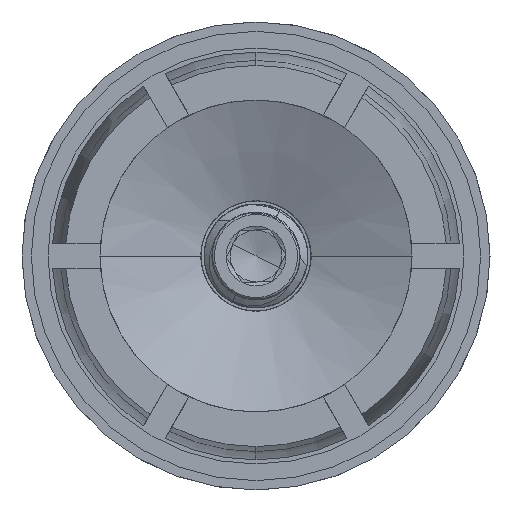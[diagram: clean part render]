
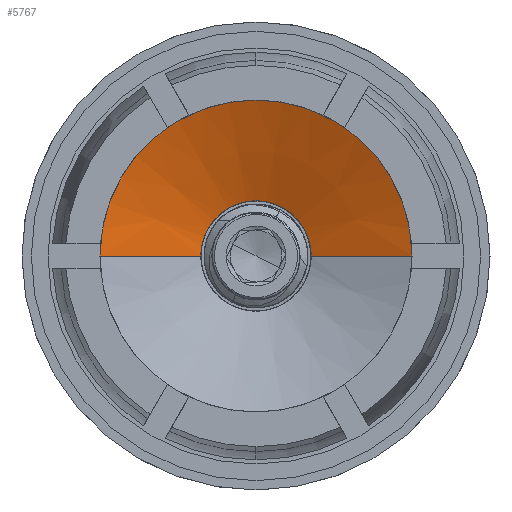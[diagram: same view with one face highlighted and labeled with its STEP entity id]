
A CAD part, left-side view. The second image highlights one B-rep face of the part: STEP entity #5767.
In plain terms, the highlighted conical face has half-angle 67.5 degrees and reference radius 2414.21 mm.
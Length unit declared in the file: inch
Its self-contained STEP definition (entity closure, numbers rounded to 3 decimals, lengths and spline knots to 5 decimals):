
#599 = EDGE_LOOP ( 'NONE', ( #23199, #25262, #19503, #22967, #2483 ) ) ;
#1415 = LINE ( 'NONE', #22164, #6798 ) ;
#1890 = DIRECTION ( 'NONE',  ( -0.383, -0.924, 0. ) ) ;
#2481 = VERTEX_POINT ( 'NONE', #18488 ) ;
#2483 = ORIENTED_EDGE ( 'NONE', *, *, #17747, .F. ) ;
#4364 = AXIS2_PLACEMENT_3D ( 'NONE', #8203, #16294, #13179 ) ;
#5008 = AXIS2_PLACEMENT_3D ( 'NONE', #19034, #6849, #21093 ) ;
#5767 = ADVANCED_FACE ( 'NONE', ( #8764 ), #23735, .F. ) ;
#6581 = CARTESIAN_POINT ( 'NONE',  ( -0.08726, 0., 0. ) ) ;
#6583 = VERTEX_POINT ( 'NONE', #14789 ) ;
#6798 = VECTOR ( 'NONE', #1890, 39.37008 ) ;
#6849 = DIRECTION ( 'NONE',  ( 1., 0., 0. ) ) ;
#6949 = AXIS2_PLACEMENT_3D ( 'NONE', #6581, #20815, #8636 ) ;
#7397 = CARTESIAN_POINT ( 'NONE',  ( -0.1875, 0., 0. ) ) ;
#7983 = DIRECTION ( 'NONE',  ( -0.383, 0.924, 0. ) ) ;
#8203 = CARTESIAN_POINT ( 'NONE',  ( -39.40225, 0., 0. ) ) ;
#8636 = DIRECTION ( 'NONE',  ( 0., -1., 0. ) ) ;
#8764 = FACE_OUTER_BOUND ( 'NONE', #599, .T. ) ;
#9265 = EDGE_CURVE ( 'NONE', #6583, #16496, #25933, .T. ) ;
#9461 = DIRECTION ( 'NONE',  ( 0., 1., 0. ) ) ;
#10982 = CIRCLE ( 'NONE', #6949, 0.133 ) ;
#12903 = CIRCLE ( 'NONE', #5008, 0.133 ) ;
#13179 = DIRECTION ( 'NONE',  ( 0., -1., 0. ) ) ;
#13790 = EDGE_CURVE ( 'NONE', #6583, #14997, #12903, .T. ) ;
#14789 = CARTESIAN_POINT ( 'NONE',  ( -0.08726, 0.133, 0. ) ) ;
#14997 = VERTEX_POINT ( 'NONE', #23111 ) ;
#15091 = VECTOR ( 'NONE', #7983, 39.37008 ) ;
#15412 = CARTESIAN_POINT ( 'NONE',  ( -0.1875, 0.375, 0. ) ) ;
#15897 = EDGE_CURVE ( 'NONE', #2481, #21970, #1415, .T. ) ;
#16294 = DIRECTION ( 'NONE',  ( -1., 0., 0. ) ) ;
#16496 = VERTEX_POINT ( 'NONE', #15412 ) ;
#17747 = EDGE_CURVE ( 'NONE', #16496, #21970, #25435, .T. ) ;
#18095 = CARTESIAN_POINT ( 'NONE',  ( -0.03217, 0., 0. ) ) ;
#18488 = CARTESIAN_POINT ( 'NONE',  ( -0.08726, -0.133, 0. ) ) ;
#19034 = CARTESIAN_POINT ( 'NONE',  ( -0.08726, 0., 0. ) ) ;
#19187 = CARTESIAN_POINT ( 'NONE',  ( -0.1875, -0.375, 0. ) ) ;
#19503 = ORIENTED_EDGE ( 'NONE', *, *, #19652, .T. ) ;
#19652 = EDGE_CURVE ( 'NONE', #14997, #2481, #10982, .T. ) ;
#20815 = DIRECTION ( 'NONE',  ( 1., 0., 0. ) ) ;
#21074 = AXIS2_PLACEMENT_3D ( 'NONE', #7397, #21646, #9461 ) ;
#21093 = DIRECTION ( 'NONE',  ( 0., -1., 0. ) ) ;
#21646 = DIRECTION ( 'NONE',  ( 1., 0., 0. ) ) ;
#21970 = VERTEX_POINT ( 'NONE', #19187 ) ;
#22164 = CARTESIAN_POINT ( 'NONE',  ( -0.03217, 0., 0. ) ) ;
#22967 = ORIENTED_EDGE ( 'NONE', *, *, #15897, .T. ) ;
#23111 = CARTESIAN_POINT ( 'NONE',  ( -0.08726, 0., 0.133 ) ) ;
#23199 = ORIENTED_EDGE ( 'NONE', *, *, #9265, .F. ) ;
#23735 = CONICAL_SURFACE ( 'NONE', #4364, 95.04778, 1.178 ) ;
#25262 = ORIENTED_EDGE ( 'NONE', *, *, #13790, .T. ) ;
#25435 = CIRCLE ( 'NONE', #21074, 0.375 ) ;
#25933 = LINE ( 'NONE', #18095, #15091 ) ;
